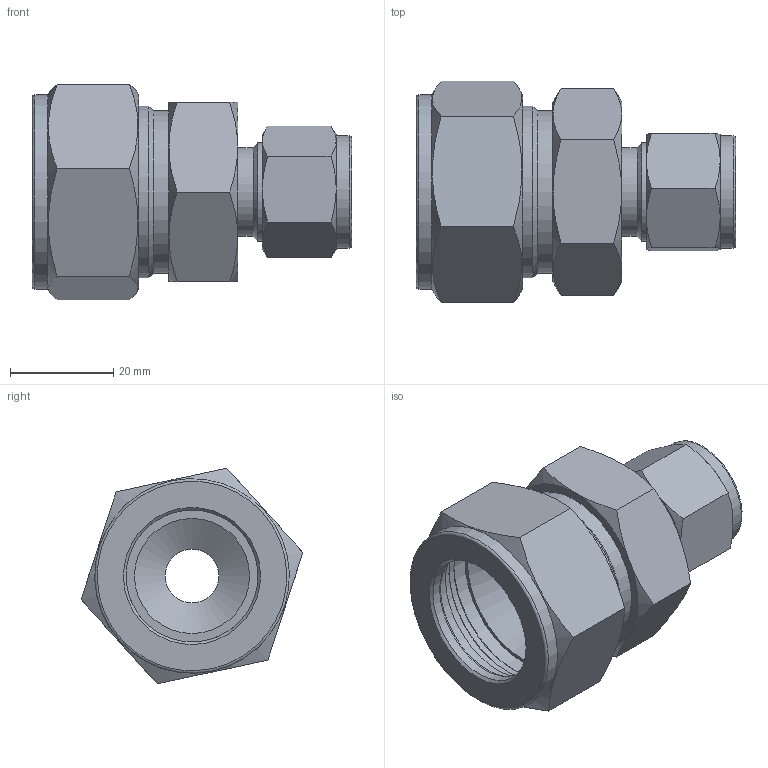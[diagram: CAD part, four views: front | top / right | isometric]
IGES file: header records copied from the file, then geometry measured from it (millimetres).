
Global section: file name: No Iges File Name specified; native system: Autodesk Inventor 2012; preprocessor: AutoDesk Inventor Iges Exporter R2012; author: 硅己绕,,1; organization: 1; date: 20150422.182448; units: millimetre
Bounding box: 61.96 x 43.03 x 41.84 mm (x, y, z)
Volume: 27545.4 mm3; surface area: 16536.4 mm2
Topology: 3 solids, 3 shells, 101 faces, 212 edges, 128 vertices
Faces by surface type: plane 35, cone 30, revolution 24, cylinder 8, torus 4
Full cylindrical faces by diameter (mm): 17.2 x1, 17.3 x1, 19.05 x1, 21.8 x1, 31.45 x2, 33.34 x1, 37.8 x1
